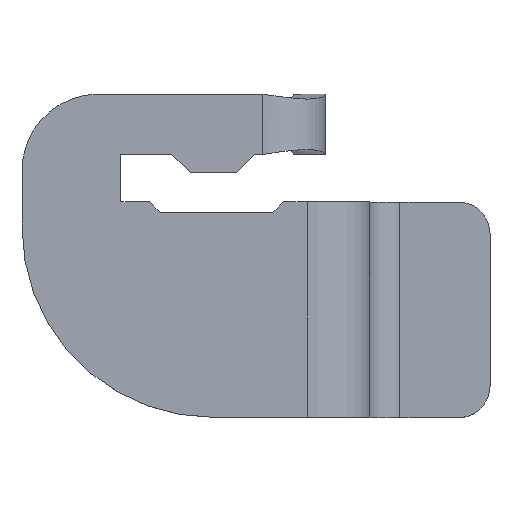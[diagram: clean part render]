
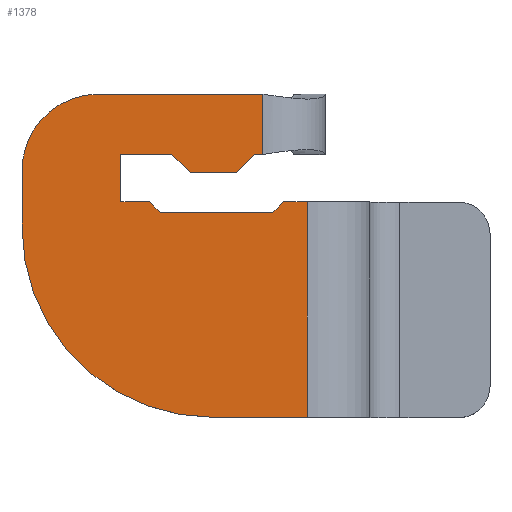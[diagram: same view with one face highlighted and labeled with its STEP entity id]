
A CAD part, top view. The second image highlights one B-rep face of the part: STEP entity #1378.
In plain terms, the highlighted planar face has unit normal (0, 0, 1).
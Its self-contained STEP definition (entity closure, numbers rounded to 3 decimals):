
#17 = FACE_OUTER_BOUND ( 'NONE', #1470, .T. ) ;
#194 = VECTOR ( 'NONE', #812, 1000. ) ;
#196 = VECTOR ( 'NONE', #873, 1000. ) ;
#197 = LINE ( 'NONE', #874, #194 ) ;
#198 = VECTOR ( 'NONE', #910, 1000. ) ;
#199 = LINE ( 'NONE', #884, #196 ) ;
#200 = VECTOR ( 'NONE', #805, 1000. ) ;
#202 = VECTOR ( 'NONE', #756, 1000. ) ;
#203 = LINE ( 'NONE', #862, #198 ) ;
#204 = VECTOR ( 'NONE', #823, 1000. ) ;
#205 = LINE ( 'NONE', #814, #202 ) ;
#206 = VECTOR ( 'NONE', #886, 1000. ) ;
#207 = LINE ( 'NONE', #887, #204 ) ;
#208 = VECTOR ( 'NONE', #827, 1000. ) ;
#209 = LINE ( 'NONE', #898, #206 ) ;
#210 = LINE ( 'NONE', #810, #208 ) ;
#211 = VECTOR ( 'NONE', #878, 1000. ) ;
#212 = CIRCLE ( 'NONE', #630, 15. ) ;
#213 = LINE ( 'NONE', #855, #200 ) ;
#214 = VECTOR ( 'NONE', #879, 1000. ) ;
#215 = LINE ( 'NONE', #817, #211 ) ;
#216 = VECTOR ( 'NONE', #916, 1000. ) ;
#217 = LINE ( 'NONE', #877, #214 ) ;
#218 = VECTOR ( 'NONE', #911, 1000. ) ;
#219 = CIRCLE ( 'NONE', #632, 6. ) ;
#221 = LINE ( 'NONE', #912, #218 ) ;
#222 = VECTOR ( 'NONE', #861, 1000. ) ;
#223 = LINE ( 'NONE', #906, #216 ) ;
#225 = LINE ( 'NONE', #865, #222 ) ;
#226 = VECTOR ( 'NONE', #903, 1000. ) ;
#229 = LINE ( 'NONE', #905, #226 ) ;
#230 = VECTOR ( 'NONE', #907, 1000. ) ;
#232 = VECTOR ( 'NONE', #796, 1000. ) ;
#235 = LINE ( 'NONE', #828, #232 ) ;
#237 = LINE ( 'NONE', #820, #230 ) ;
#630 = AXIS2_PLACEMENT_3D ( 'NONE', #891, #892, #936 ) ;
#632 = AXIS2_PLACEMENT_3D ( 'NONE', #824, #825, #829 ) ;
#665 = EDGE_CURVE ( 'NONE', #1453, #1424, #235, .T. ) ;
#666 = EDGE_CURVE ( 'NONE', #1429, #1476, #237, .T. ) ;
#668 = EDGE_CURVE ( 'NONE', #1440, #1453, #229, .T. ) ;
#672 = EDGE_CURVE ( 'NONE', #1440, #1476, #225, .T. ) ;
#675 = EDGE_CURVE ( 'NONE', #1465, #1429, #221, .T. ) ;
#676 = EDGE_CURVE ( 'NONE', #1465, #1490, #223, .T. ) ;
#677 = EDGE_CURVE ( 'NONE', #1469, #1490, #217, .T. ) ;
#678 = EDGE_CURVE ( 'NONE', #1479, #1469, #219, .T. ) ;
#679 = EDGE_CURVE ( 'NONE', #1479, #1459, #215, .T. ) ;
#681 = EDGE_CURVE ( 'NONE', #1459, #1392, #212, .T. ) ;
#683 = EDGE_CURVE ( 'NONE', #1392, #1500, #210, .T. ) ;
#685 = EDGE_CURVE ( 'NONE', #1500, #1433, #209, .T. ) ;
#686 = EDGE_CURVE ( 'NONE', #1433, #1456, #207, .T. ) ;
#687 = EDGE_CURVE ( 'NONE', #1473, #1456, #205, .T. ) ;
#688 = EDGE_CURVE ( 'NONE', #1493, #1473, #213, .T. ) ;
#689 = EDGE_CURVE ( 'NONE', #1493, #1397, #203, .T. ) ;
#690 = EDGE_CURVE ( 'NONE', #1397, #1444, #199, .T. ) ;
#691 = EDGE_CURVE ( 'NONE', #1444, #1424, #197, .T. ) ;
#756 = DIRECTION ( 'NONE',  ( 0.707, 0.707, 0. ) ) ;
#796 = DIRECTION ( 'NONE',  ( -1., 0., 0. ) ) ;
#805 = DIRECTION ( 'NONE',  ( 1., 0., 0. ) ) ;
#810 = CARTESIAN_POINT ( 'NONE',  ( 0., -18.15, 0. ) ) ;
#812 = DIRECTION ( 'NONE',  ( 0., 1., 0. ) ) ;
#814 = CARTESIAN_POINT ( 'NONE',  ( 20.375, -2., 0. ) ) ;
#817 = CARTESIAN_POINT ( 'NONE',  ( 0.6, 9., 0. ) ) ;
#820 = CARTESIAN_POINT ( 'NONE',  ( 18.925, 2.575, 0. ) ) ;
#823 = DIRECTION ( 'NONE',  ( -1., 0., 0. ) ) ;
#824 = CARTESIAN_POINT ( 'NONE',  ( 6.6, 1.325, 0. ) ) ;
#825 = DIRECTION ( 'NONE',  ( 0., 0., -1. ) ) ;
#827 = DIRECTION ( 'NONE',  ( 1., 0., 0. ) ) ;
#828 = CARTESIAN_POINT ( 'NONE',  ( 8.4, 2.575, 0. ) ) ;
#829 = DIRECTION ( 'NONE',  ( -1., 0., 0. ) ) ;
#855 = CARTESIAN_POINT ( 'NONE',  ( 24., -2., 0. ) ) ;
#861 = DIRECTION ( 'NONE',  ( 1., 0., 0. ) ) ;
#862 = CARTESIAN_POINT ( 'NONE',  ( 11.5, -2., 0. ) ) ;
#865 = CARTESIAN_POINT ( 'NONE',  ( 9., 1.15, 0. ) ) ;
#873 = DIRECTION ( 'NONE',  ( -1., 0., 0. ) ) ;
#874 = CARTESIAN_POINT ( 'NONE',  ( 8.4, -1.15, 0. ) ) ;
#877 = CARTESIAN_POINT ( 'NONE',  ( 19.6, 7.325, 0. ) ) ;
#878 = DIRECTION ( 'NONE',  ( 0., -1., 0. ) ) ;
#879 = DIRECTION ( 'NONE',  ( 1., 0., 0. ) ) ;
#884 = CARTESIAN_POINT ( 'NONE',  ( 10.65, -1.15, 0. ) ) ;
#886 = DIRECTION ( 'NONE',  ( 0., 1., 0. ) ) ;
#887 = CARTESIAN_POINT ( 'NONE',  ( 28., -1.15, 0. ) ) ;
#891 = CARTESIAN_POINT ( 'NONE',  ( 15.6, -3.15, 0. ) ) ;
#892 = DIRECTION ( 'NONE',  ( 0., 0., 1. ) ) ;
#898 = CARTESIAN_POINT ( 'NONE',  ( 23.1, -9., 0. ) ) ;
#903 = DIRECTION ( 'NONE',  ( -0.707, 0.707, 0. ) ) ;
#905 = CARTESIAN_POINT ( 'NONE',  ( 15., 0., 0. ) ) ;
#906 = CARTESIAN_POINT ( 'NONE',  ( 19.6, 1.15, 0. ) ) ;
#907 = DIRECTION ( 'NONE',  ( -0.707, -0.707, 0. ) ) ;
#910 = DIRECTION ( 'NONE',  ( -0.707, 0.707, 0. ) ) ;
#911 = DIRECTION ( 'NONE',  ( -1., 0., 0. ) ) ;
#912 = CARTESIAN_POINT ( 'NONE',  ( 19.6, 2.575, 0. ) ) ;
#916 = DIRECTION ( 'NONE',  ( 0., 1., 0. ) ) ;
#936 = DIRECTION ( 'NONE',  ( 1., 0., 0. ) ) ;
#1055 = AXIS2_PLACEMENT_3D ( 'NONE', #1120, #1125, #1126 ) ;
#1118 = PLANE ( 'NONE',  #1055 ) ;
#1120 = CARTESIAN_POINT ( 'NONE',  ( 24., 9., 0. ) ) ;
#1125 = DIRECTION ( 'NONE',  ( 0., 0., 1. ) ) ;
#1126 = DIRECTION ( 'NONE',  ( 1., 0., 0. ) ) ;
#1158 = CARTESIAN_POINT ( 'NONE',  ( 10.65, -1.15, 0. ) ) ;
#1162 = CARTESIAN_POINT ( 'NONE',  ( 15.6, -18.15, 0. ) ) ;
#1179 = CARTESIAN_POINT ( 'NONE',  ( 8.4, 2.575, 0. ) ) ;
#1183 = CARTESIAN_POINT ( 'NONE',  ( 18.925, 2.575, 0. ) ) ;
#1187 = CARTESIAN_POINT ( 'NONE',  ( 23.1, -1.15, 0. ) ) ;
#1190 = CARTESIAN_POINT ( 'NONE',  ( 13.85, 1.15, 0. ) ) ;
#1193 = CARTESIAN_POINT ( 'NONE',  ( 8.4, -1.15, 0. ) ) ;
#1198 = CARTESIAN_POINT ( 'NONE',  ( 12.425, 2.575, 0. ) ) ;
#1200 = CARTESIAN_POINT ( 'NONE',  ( 21.225, -1.15, 0. ) ) ;
#1203 = CARTESIAN_POINT ( 'NONE',  ( 0.6, -3.15, 0. ) ) ;
#1207 = CARTESIAN_POINT ( 'NONE',  ( 19.6, 2.575, 0. ) ) ;
#1209 = CARTESIAN_POINT ( 'NONE',  ( 6.6, 7.325, 0. ) ) ;
#1211 = CARTESIAN_POINT ( 'NONE',  ( 20.375, -2., 0. ) ) ;
#1213 = CARTESIAN_POINT ( 'NONE',  ( 17.5, 1.15, 0. ) ) ;
#1215 = CARTESIAN_POINT ( 'NONE',  ( 0.6, 1.325, 0. ) ) ;
#1220 = CARTESIAN_POINT ( 'NONE',  ( 19.6, 7.325, 0. ) ) ;
#1222 = CARTESIAN_POINT ( 'NONE',  ( 11.5, -2., 0. ) ) ;
#1226 = CARTESIAN_POINT ( 'NONE',  ( 23.1, -18.15, 0. ) ) ;
#1378 = ADVANCED_FACE ( 'NONE', ( #17 ), #1118, .T. ) ;
#1392 = VERTEX_POINT ( 'NONE', #1162 ) ;
#1397 = VERTEX_POINT ( 'NONE', #1158 ) ;
#1424 = VERTEX_POINT ( 'NONE', #1179 ) ;
#1429 = VERTEX_POINT ( 'NONE', #1183 ) ;
#1433 = VERTEX_POINT ( 'NONE', #1187 ) ;
#1440 = VERTEX_POINT ( 'NONE', #1190 ) ;
#1444 = VERTEX_POINT ( 'NONE', #1193 ) ;
#1453 = VERTEX_POINT ( 'NONE', #1198 ) ;
#1456 = VERTEX_POINT ( 'NONE', #1200 ) ;
#1459 = VERTEX_POINT ( 'NONE', #1203 ) ;
#1465 = VERTEX_POINT ( 'NONE', #1207 ) ;
#1469 = VERTEX_POINT ( 'NONE', #1209 ) ;
#1470 = EDGE_LOOP ( 'NONE', ( #1533, #1534, #1535, #1536, #1537, #1538, #1539, #1540, #1541, #1543, #1544, #1545, #1546, #1547, #1548, #1549, #1550, #1551 ) ) ;
#1473 = VERTEX_POINT ( 'NONE', #1211 ) ;
#1476 = VERTEX_POINT ( 'NONE', #1213 ) ;
#1479 = VERTEX_POINT ( 'NONE', #1215 ) ;
#1490 = VERTEX_POINT ( 'NONE', #1220 ) ;
#1493 = VERTEX_POINT ( 'NONE', #1222 ) ;
#1500 = VERTEX_POINT ( 'NONE', #1226 ) ;
#1533 = ORIENTED_EDGE ( 'NONE', *, *, #665, .F. ) ;
#1534 = ORIENTED_EDGE ( 'NONE', *, *, #668, .F. ) ;
#1535 = ORIENTED_EDGE ( 'NONE', *, *, #672, .T. ) ;
#1536 = ORIENTED_EDGE ( 'NONE', *, *, #666, .F. ) ;
#1537 = ORIENTED_EDGE ( 'NONE', *, *, #675, .F. ) ;
#1538 = ORIENTED_EDGE ( 'NONE', *, *, #676, .T. ) ;
#1539 = ORIENTED_EDGE ( 'NONE', *, *, #677, .F. ) ;
#1540 = ORIENTED_EDGE ( 'NONE', *, *, #678, .F. ) ;
#1541 = ORIENTED_EDGE ( 'NONE', *, *, #679, .T. ) ;
#1543 = ORIENTED_EDGE ( 'NONE', *, *, #681, .T. ) ;
#1544 = ORIENTED_EDGE ( 'NONE', *, *, #683, .T. ) ;
#1545 = ORIENTED_EDGE ( 'NONE', *, *, #685, .T. ) ;
#1546 = ORIENTED_EDGE ( 'NONE', *, *, #686, .T. ) ;
#1547 = ORIENTED_EDGE ( 'NONE', *, *, #687, .F. ) ;
#1548 = ORIENTED_EDGE ( 'NONE', *, *, #688, .F. ) ;
#1549 = ORIENTED_EDGE ( 'NONE', *, *, #689, .T. ) ;
#1550 = ORIENTED_EDGE ( 'NONE', *, *, #690, .T. ) ;
#1551 = ORIENTED_EDGE ( 'NONE', *, *, #691, .T. ) ;
